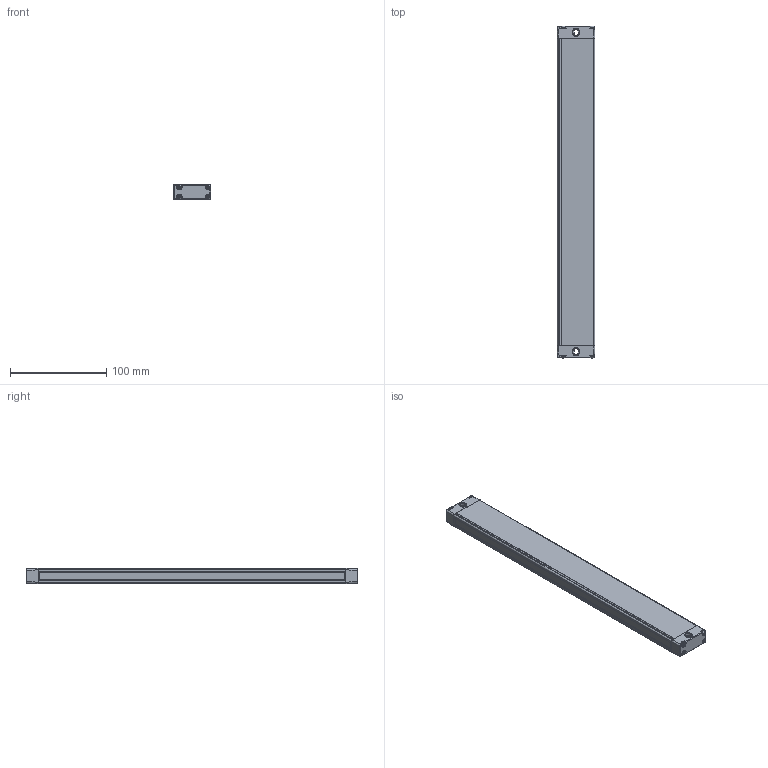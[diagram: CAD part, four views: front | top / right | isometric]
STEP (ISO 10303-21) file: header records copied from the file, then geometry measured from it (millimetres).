
FILE_DESCRIPTION((''),'2;1');
FILE_NAME('EB15--3610_ASM','2021-07-22T09:59:08',('18720616900'),(''),'CREO PARAMETRIC BY PTC INC, 2019010','CREO PARAMETRIC BY PTC INC, 2019010','');
FILE_SCHEMA(('CONFIG_CONTROL_DESIGN'));
Length unit declared in the file: millimetre
Products named in the file (6): EB15-00; EB15-000; EB15-0003; EB15-0004; ST-3-12; EB15--3610_ASM
Assembly tree (12 placements, depth 2):
  EB15--3610_ASM
    EB15-00
    EB15-000
    EB15-0003
    EB15-0004
    ST-3-12  x8
Bounding box: 39.15 x 345 x 15.8 mm (x, y, z)
Volume: 206824.3 mm3; surface area: 54044.1 mm2
Topology: 12 solids, 12 shells, 827 faces, 2188 edges, 1368 vertices
Faces by surface type: plane 242, bspline 188, cone 176, cylinder 165, torus 40, sphere 16
Entity records: 16044 total; most frequent: CARTESIAN_POINT 7660, ORIENTED_EDGE 1804, DIRECTION 1603, EDGE_CURVE 902, AXIS2_PLACEMENT_3D 577, VERTEX_POINT 563, VECTOR 449, LINE 449
